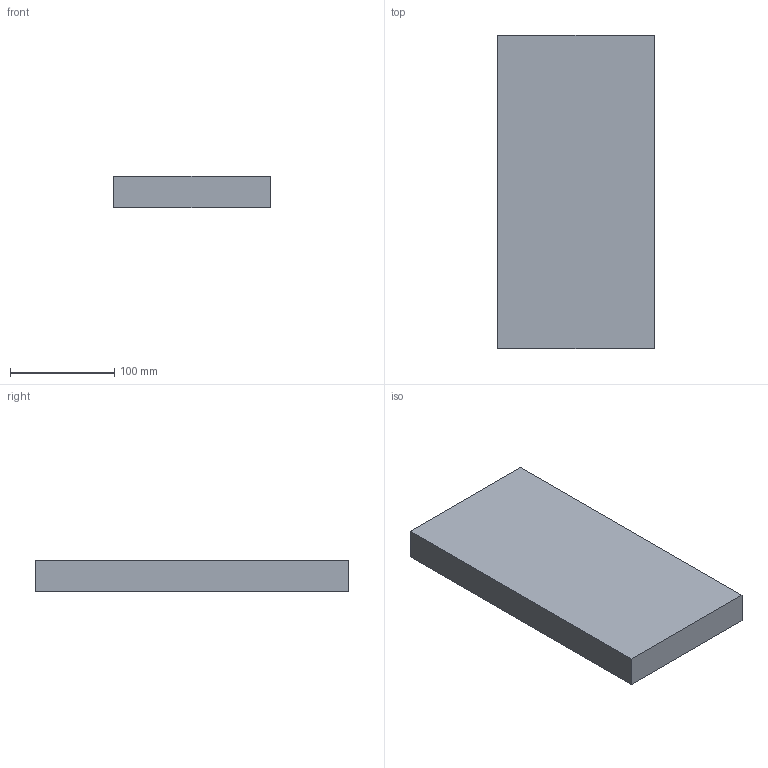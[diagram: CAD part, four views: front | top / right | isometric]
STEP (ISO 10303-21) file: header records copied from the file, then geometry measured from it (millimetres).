
FILE_DESCRIPTION(('Open CASCADE Model'),'2;1');
FILE_NAME('Open CASCADE Shape Model','2026-10-15T15:10:04',('Author'),( 'Open CASCADE'),'Open CASCADE STEP processor 8.0','Open CASCADE 8.0' ,'Unknown');
FILE_SCHEMA(('AUTOMOTIVE_DESIGN { 1 0 10303 214 1 1 1 1 }'));
Length unit declared in the file: millimetre
Products named in the file (1): CR_CAP_CENTRAL_150x300x30_P05 83
Bounding box: 150 x 300 x 30 mm (x, y, z)
Volume: 1350000 mm3; surface area: 117000 mm2
Topology: 1 solids, 1 shells, 6 faces, 12 edges, 8 vertices
Faces by surface type: plane 6
Entity records: 322 total; most frequent: CARTESIAN_POINT 51, DIRECTION 50, LINE 36, VECTOR 36, ORIENTED_EDGE 24, PCURVE 24, DEFINITIONAL_REPRESENTATION 24, EDGE_CURVE 12
